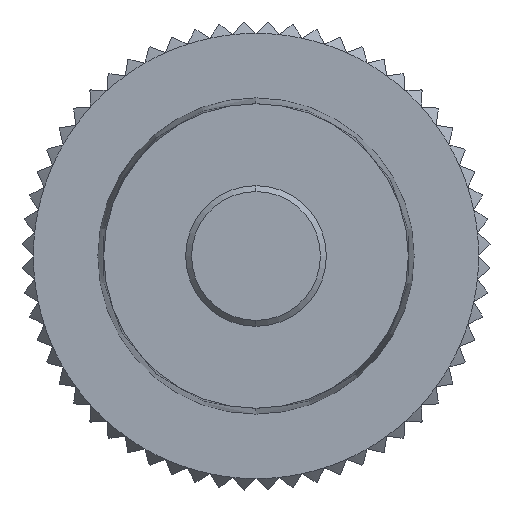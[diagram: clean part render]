
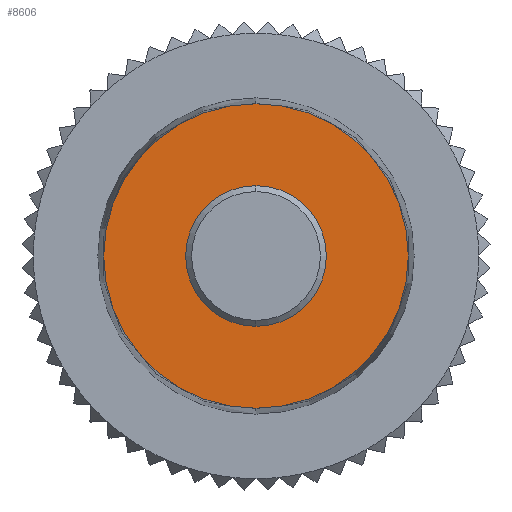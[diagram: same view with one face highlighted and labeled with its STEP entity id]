
A CAD part, front view. The second image highlights one B-rep face of the part: STEP entity #8606.
In plain terms, the highlighted planar face has unit normal (0, -1, 0).
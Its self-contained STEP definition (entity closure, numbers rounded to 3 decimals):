
#73 = VERTEX_POINT ( 'NONE', #2049 ) ;
#76 = VERTEX_POINT ( 'NONE', #2047 ) ;
#77 = EDGE_CURVE ( 'NONE', #73, #76, #2046, .T. ) ;
#2042 = DIRECTION ( 'NONE',  ( 0., 0., -1. ) ) ;
#2043 = DIRECTION ( 'NONE',  ( 0., -1., 0. ) ) ;
#2044 = CARTESIAN_POINT ( 'NONE',  ( 0., 0., 0. ) ) ;
#2045 = AXIS2_PLACEMENT_3D ( 'NONE', #2044, #2043, #2042 ) ;
#2046 = CIRCLE ( 'NONE', #2045, 6.5 ) ;
#2047 = CARTESIAN_POINT ( 'NONE',  ( 0., 0., 6.5 ) ) ;
#2049 = CARTESIAN_POINT ( 'NONE',  ( 0., 0., -6.5 ) ) ;
#5643 = EDGE_CURVE ( 'NONE', #5658, #5648, #6524, .T. ) ;
#5648 = VERTEX_POINT ( 'NONE', #6509 ) ;
#5658 = VERTEX_POINT ( 'NONE', #6551 ) ;
#6509 = CARTESIAN_POINT ( 'NONE',  ( 0., 0., -3. ) ) ;
#6520 = DIRECTION ( 'NONE',  ( 0., 0., -1. ) ) ;
#6521 = DIRECTION ( 'NONE',  ( 0., -1., 0. ) ) ;
#6522 = CARTESIAN_POINT ( 'NONE',  ( 0., 0., 0. ) ) ;
#6523 = AXIS2_PLACEMENT_3D ( 'NONE', #6522, #6521, #6520 ) ;
#6524 = CIRCLE ( 'NONE', #6523, 3. ) ;
#6551 = CARTESIAN_POINT ( 'NONE',  ( 0., 0., 3. ) ) ;
#7686 = DIRECTION ( 'NONE',  ( 0., 0., -1. ) ) ;
#7687 = DIRECTION ( 'NONE',  ( 0., -1., 0. ) ) ;
#7688 = CARTESIAN_POINT ( 'NONE',  ( 0., 0., 0. ) ) ;
#7689 = AXIS2_PLACEMENT_3D ( 'NONE', #7688, #7687, #7686 ) ;
#7690 = CIRCLE ( 'NONE', #7689, 6.5 ) ;
#7736 = CARTESIAN_POINT ( 'NONE',  ( 0., 0., 0. ) ) ;
#7741 = CIRCLE ( 'NONE', #7791, 3. ) ;
#7771 = DIRECTION ( 'NONE',  ( 0., 0., -1. ) ) ;
#7772 = DIRECTION ( 'NONE',  ( 0., -1., 0. ) ) ;
#7773 = CARTESIAN_POINT ( 'NONE',  ( 0., 0., 0. ) ) ;
#7774 = AXIS2_PLACEMENT_3D ( 'NONE', #7773, #7772, #7771 ) ;
#7779 = PLANE ( 'NONE',  #7774 ) ;
#7780 = FACE_BOUND ( 'NONE', #8595, .T. ) ;
#7782 = FACE_OUTER_BOUND ( 'NONE', #8552, .T. ) ;
#7789 = DIRECTION ( 'NONE',  ( 0., 0., -1. ) ) ;
#7790 = DIRECTION ( 'NONE',  ( 0., -1., 0. ) ) ;
#7791 = AXIS2_PLACEMENT_3D ( 'NONE', #7736, #7790, #7789 ) ;
#8541 = ORIENTED_EDGE ( 'NONE', *, *, #77, .T. ) ;
#8547 = EDGE_CURVE ( 'NONE', #76, #73, #7690, .T. ) ;
#8548 = ORIENTED_EDGE ( 'NONE', *, *, #8547, .T. ) ;
#8552 = EDGE_LOOP ( 'NONE', ( #8548, #8541 ) ) ;
#8595 = EDGE_LOOP ( 'NONE', ( #8597, #8647 ) ) ;
#8597 = ORIENTED_EDGE ( 'NONE', *, *, #8598, .F. ) ;
#8598 = EDGE_CURVE ( 'NONE', #5648, #5658, #7741, .T. ) ;
#8606 = ADVANCED_FACE ( 'NONE', ( #7780, #7782 ), #7779, .T. ) ;
#8647 = ORIENTED_EDGE ( 'NONE', *, *, #5643, .F. ) ;
